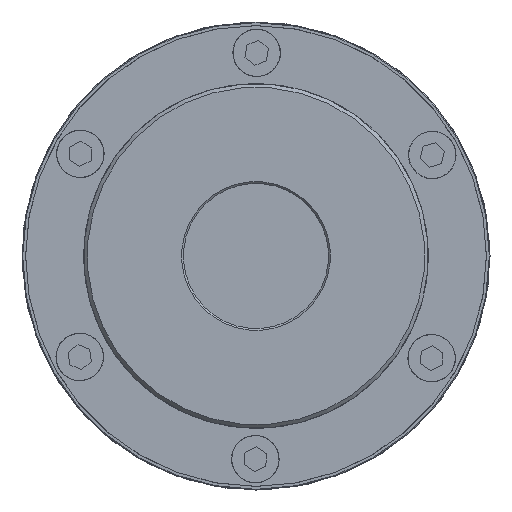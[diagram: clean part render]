
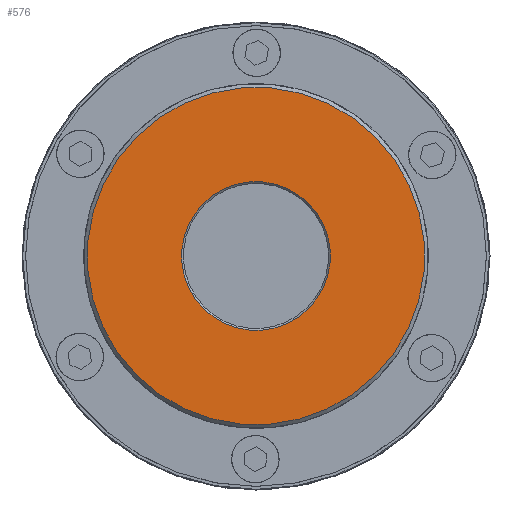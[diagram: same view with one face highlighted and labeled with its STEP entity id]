
A CAD part, left-side view. The second image highlights one B-rep face of the part: STEP entity #576.
In plain terms, the highlighted planar face has unit normal (-1, 0, 0).
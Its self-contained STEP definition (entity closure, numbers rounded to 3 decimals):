
#576 = ADVANCED_FACE( '', ( #1162, #1163 ), #1164, .T. );
#1162 = FACE_OUTER_BOUND( '', #1987, .T. );
#1163 = FACE_BOUND( '', #1988, .T. );
#1164 = PLANE( '', #1989 );
#1987 = EDGE_LOOP( '', ( #3194 ) );
#1988 = EDGE_LOOP( '', ( #3195 ) );
#1989 = AXIS2_PLACEMENT_3D( '', #3196, #3197, #3198 );
#3194 = ORIENTED_EDGE( '', *, *, #4810, .T. );
#3195 = ORIENTED_EDGE( '', *, *, #4811, .T. );
#3196 = CARTESIAN_POINT( '', ( -73.5, 0., 0. ) );
#3197 = DIRECTION( '', ( -1., 0., 0. ) );
#3198 = DIRECTION( '', ( 0., 0., 1. ) );
#4810 = EDGE_CURVE( '', #5570, #5570, #5571, .T. );
#4811 = EDGE_CURVE( '', #5572, #5572, #5573, .F. );
#5570 = VERTEX_POINT( '', #6986 );
#5571 = CIRCLE( '', #6987, 46.5 );
#5572 = VERTEX_POINT( '', #6988 );
#5573 = CIRCLE( '', #6989, 20.5 );
#6986 = CARTESIAN_POINT( '', ( -73.5, -46.5, 0. ) );
#6987 = AXIS2_PLACEMENT_3D( '', #8582, #8583, #8584 );
#6988 = CARTESIAN_POINT( '', ( -73.5, -20.5, 0. ) );
#6989 = AXIS2_PLACEMENT_3D( '', #8585, #8586, #8587 );
#8582 = CARTESIAN_POINT( '', ( -73.5, 0., 0. ) );
#8583 = DIRECTION( '', ( -1., 0., 0. ) );
#8584 = DIRECTION( '', ( 0., -1., 0. ) );
#8585 = CARTESIAN_POINT( '', ( -73.5, 0., 0. ) );
#8586 = DIRECTION( '', ( -1., 0., 0. ) );
#8587 = DIRECTION( '', ( 0., -1., 0. ) );
